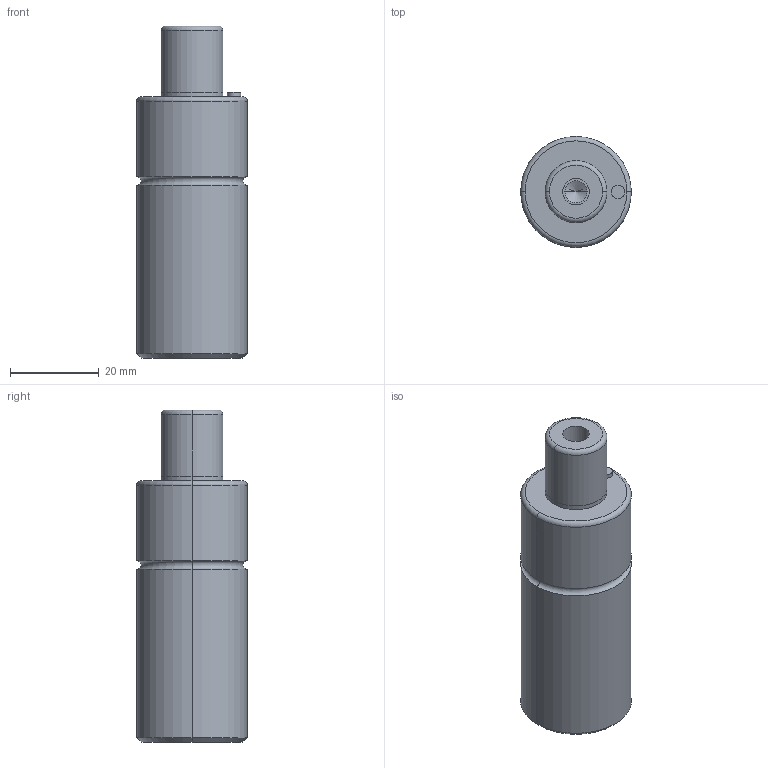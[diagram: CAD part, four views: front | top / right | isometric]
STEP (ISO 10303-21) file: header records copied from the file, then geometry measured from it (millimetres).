
FILE_DESCRIPTION(/* description */ (''),/* implementation_level */ '2;1');
FILE_NAME(/* name */ '3d_mgsa25-15_04553_r00.stp',/* time_stamp */ '2011-01-10T14:13:36+09:00',/* author */ ('MISUMI'),/* organization */ (''),/* preprocessor_version */ 'ST-DEVELOPER v11',/* originating_system */ 'UGS - NX 5.0',/* authorisation */ '');
FILE_SCHEMA (('CONFIG_CONTROL_DESIGN'));
Length unit declared in the file: millimetre
Products named in the file (1): 3d_mgsa25-15_04553_r00
Bounding box: 25 x 25 x 75 mm (x, y, z)
Volume: 30755.3 mm3; surface area: 6637.8 mm2
Topology: 1 solids, 1 shells, 36 faces, 74 edges, 42 vertices
Faces by surface type: cylinder 18, torus 6, cone 6, plane 6
Entity records: 1014 total; most frequent: DIRECTION 190, CARTESIAN_POINT 149, ORIENTED_EDGE 140, AXIS2_PLACEMENT_3D 83, EDGE_CURVE 70, CIRCLE 46, EDGE_LOOP 42, VERTEX_POINT 42
